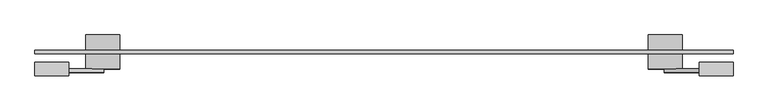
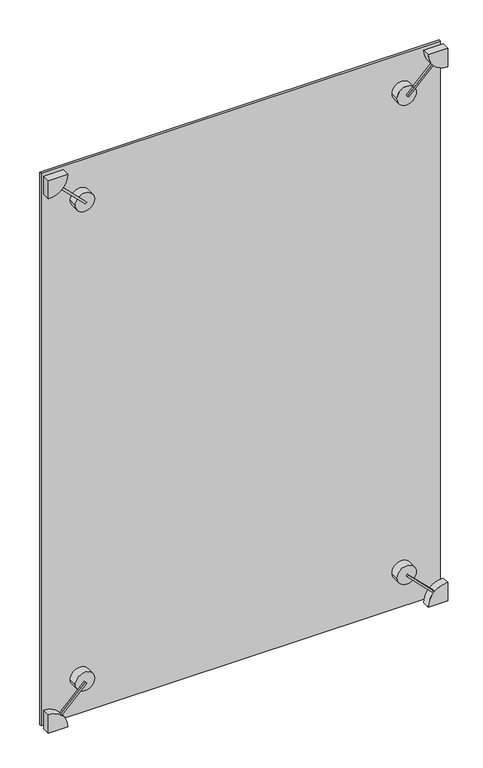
"""IFC4 building model written with IfcOpenShell, lengths in millimetres: plate geometry, 点爪式幕墙嵌板 : 点爪式幕墙嵌板."""

from ifc_helpers import new_model, si_unit, point, frame, frame_2d, origin, origin_with_axes, place, context, project, spatial, polyline, circle_curve, trimmed, segment, composite_curve, outline, extrude, source, transform, mapped, element, save
from ifc_brep_helpers import plane_surface, cylinder_surface, advanced_brep


def plate_4a5322c5(model_context):
    return source(origin(), model_context, "Body", "SolidModel", [
        extrude(outline(polyline([(0.0, -10.0), (0.0, 0.0), (10.0, 0.0), (10.0, -10.0), (0.0, -10.0)])), frame((-958.7667022, -60.0, 73.3043656), z_axis=(0.7071067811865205, 0.0, 0.7071067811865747), x_axis=(0.0, 1.0, 0.0)), (0.0, 0.0, 1.0), 181.331972),
        extrude(outline(composite_curve([segment(trimmed(circle_curve(frame_2d((0.0, -1025.0)), 100.0), [point((0.0, -925.0))], [point((100.0, -1025.0))], False, "CARTESIAN"), True, "CONTINUOUS"), segment(polyline([(100.0, -1025.0), (0.0, -1025.0), (0.0, -925.0)]), True, "CONTINUOUS")], self_intersect=False)), frame((0.0, -70.0, 0.0), z_axis=(0.0, 1.0, 0.0), x_axis=(0.0, 0.0, 1.0)), (0.0, 0.0, 1.0), 40.0),
        extrude(outline(composite_curve([segment(trimmed(circle_curve(frame_2d((199.0051024, -825.9948976)), 50.0), [point((199.0051024, -775.9948976))], [point((199.0051024, -875.9948976))], False, "CARTESIAN"), True, "CONTINUOUS"), segment(trimmed(circle_curve(frame_2d((199.0051024, -825.9948976)), 50.0), [point((199.0051024, -875.9948976))], [point((199.0051024, -775.9948976))], False, "CARTESIAN"), True, "CONTINUOUS")], self_intersect=False)), frame((0.0, -50.0, 0.0), z_axis=(0.0, 1.0, 0.0), x_axis=(0.0, 0.0, 1.0)), (0.0, 0.0, 1.0), 100.0),
        extrude(outline(polyline([(0.0, -181.3319719), (0.0, 0.0), (10.0, 0.0), (10.0, -181.3319719), (0.0, -181.3319719)])), frame((823.4745674, -60.0, 194.4543648), z_axis=(0.7071067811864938, 0.0, 0.7071067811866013), x_axis=(0.0, 1.0, 0.0)), (0.0, 0.0, 1.0), 10.0),
        extrude(outline(composite_curve([segment(polyline([(0.0, 925.0), (0.0, 1025.0), (100.0, 1025.0)]), True, "CONTINUOUS"), segment(trimmed(circle_curve(frame_2d((0.0, 1025.0)), 100.0), [point((100.0, 1025.0))], [point((0.0, 925.0))], False, "CARTESIAN"), True, "CONTINUOUS")], self_intersect=False)), frame((0.0, -70.0, 0.0), z_axis=(0.0, 1.0, 0.0), x_axis=(0.0, 0.0, 1.0)), (0.0, 0.0, 1.0), 40.0),
        extrude(outline(composite_curve([segment(trimmed(circle_curve(frame_2d((199.0051024, 825.9948976)), 50.0), [point((199.0051024, 775.9948976))], [point((199.0051024, 875.9948976))], False, "CARTESIAN"), True, "CONTINUOUS"), segment(trimmed(circle_curve(frame_2d((199.0051024, 825.9948976)), 50.0), [point((199.0051024, 875.9948976))], [point((199.0051024, 775.9948976))], False, "CARTESIAN"), True, "CONTINUOUS")], self_intersect=False)), frame((0.0, -50.0, 0.0), z_axis=(0.0, 1.0, 0.0), x_axis=(0.0, 0.0, 1.0)), (0.0, 0.0, 1.0), 100.0),
        extrude(outline(polyline([(0.0, -181.3319719), (0.0, 0.0), (10.0, 0.0), (10.0, -181.3319719), (0.0, -181.3319719)])), frame((-958.7667022, -60.0, 2926.6956344), z_axis=(0.7071067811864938, 0.0, 0.7071067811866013), x_axis=(0.0, 1.0, 0.0)), (0.0, 0.0, 1.0), 10.0),
        extrude(outline(composite_curve([segment(polyline([(3000.0, -925.0), (3000.0, -1025.0), (2900.0, -1025.0)]), True, "CONTINUOUS"), segment(trimmed(circle_curve(frame_2d((3000.0, -1025.0)), 100.0), [point((2900.0, -1025.0))], [point((3000.0, -925.0))], False, "CARTESIAN"), True, "CONTINUOUS")], self_intersect=False)), frame((0.0, -70.0, 0.0), z_axis=(0.0, 1.0, 0.0), x_axis=(0.0, 0.0, 1.0)), (0.0, 0.0, 1.0), 40.0),
        extrude(outline(composite_curve([segment(trimmed(circle_curve(frame_2d((2800.9948976, -825.9948976)), 50.0), [point((2800.9948976, -775.9948976))], [point((2800.9948976, -875.9948976))], False, "CARTESIAN"), True, "CONTINUOUS"), segment(trimmed(circle_curve(frame_2d((2800.9948976, -825.9948976)), 50.0), [point((2800.9948976, -875.9948976))], [point((2800.9948976, -775.9948976))], False, "CARTESIAN"), True, "CONTINUOUS")], self_intersect=False)), frame((0.0, -50.0, 0.0), z_axis=(0.0, 1.0, 0.0), x_axis=(0.0, 0.0, 1.0)), (0.0, 0.0, 1.0), 100.0),
        advanced_brep(
        [(775.9948976, -50.0, 2800.9948976), (875.9948976, -50.0, 2800.9948976), (864.7085497, -50.0, 2832.6374819), (830.5456352, -50.0, 2798.4745674), (823.4745674, -50.0, 2805.5456352), (857.6374819, -50.0, 2839.7085497), (775.9948976, 50.0, 2800.9948976), (875.9948976, 50.0, 2800.9948976), (823.4745674, -60.0, 2805.5456352), (830.5456352, -60.0, 2798.4745674), (957.9132994, -60.0, 2925.8422316), (950.8422316, -60.0, 2932.9132994), (950.8422316, -50.0, 2932.9132994), (957.9132994, -50.0, 2925.8422316), (925.0, -70.0, 3000.0), (1025.0, -70.0, 2900.0), (1025.0, -70.0, 3000.0), (925.0, -30.0, 3000.0), (1025.0, -30.0, 3000.0), (1025.0, -30.0, 2900.0)],
        [
            (0, 1, circle_curve(frame((825.9948976, -50.0, 2800.9948976), z_axis=(0.0, -1.0, 0.0), x_axis=(1.0, 0.0, 0.0)), 50.0)),
            (1, 2, circle_curve(frame((825.9948976, -50.0, 2800.9948976), z_axis=(0.0, -1.0, 0.0), x_axis=(1.0, 0.0, 0.0)), 50.0)),
            (2, 3),
            (3, 4),
            (4, 5),
            (5, 0, circle_curve(frame((825.9948976, -50.0, 2800.9948976), z_axis=(0.0, -1.0, 0.0), x_axis=(1.0, 0.0, 0.0)), 50.0)),
            (6, 7, circle_curve(frame((825.9948976, 50.0, 2800.9948976), z_axis=(0.0, 1.0, 0.0), x_axis=(1.0, 0.0, 0.0)), 50.0)),
            (7, 6, circle_curve(frame((825.9948976, 50.0, 2800.9948976), z_axis=(0.0, 1.0, 0.0), x_axis=(1.0, 0.0, 0.0)), 50.0)),
            (0, 6),
            (7, 1),
            (5, 2, circle_curve(frame((825.9948976, -50.0, 2800.9948976), z_axis=(0.0, 1.0, 0.0), x_axis=(1.0, 0.0, 0.0)), 50.0)),
            (8, 9),
            (9, 10),
            (10, 11, circle_curve(frame((1025.0, -60.0, 3000.0), z_axis=(0.0, 1.0, 0.0), x_axis=(1.0, 0.0, 0.0)), 100.0)),
            (11, 8),
            (5, 12),
            (12, 13, circle_curve(frame((1025.0, -50.0, 3000.0), z_axis=(0.0, -1.0, 0.0), x_axis=(1.0, 0.0, 0.0)), 100.0)),
            (13, 2),
            (4, 8),
            (11, 12),
            (3, 9),
            (13, 10),
            (14, 15, circle_curve(frame((1025.0, -70.0, 3000.0), z_axis=(0.0, -1.0, 0.0), x_axis=(1.0, 0.0, 0.0)), 100.0)),
            (15, 16),
            (16, 14),
            (17, 18),
            (18, 19),
            (19, 17, circle_curve(frame((1025.0, -30.0, 3000.0), z_axis=(0.0, 1.0, 0.0), x_axis=(1.0, 0.0, 0.0)), 100.0)),
            (14, 17),
            (19, 15),
            (18, 16),
        ],
        [
            plane_surface(frame((875.9948976, -50.0, 2800.9948976), z_axis=(0.0, -1.0, 0.0), x_axis=(0.0, 0.0, 1.0))),
            plane_surface(frame((875.9948976, 50.0, 2800.9948976), z_axis=(0.0, 1.0, 0.0), x_axis=(0.0, 0.0, -1.0))),
            cylinder_surface(frame((825.9948976, 50.0, 2800.9948976), z_axis=(0.0, -1.0, 0.0), x_axis=(1.0, 0.0, 0.0)), 50.0),
            plane_surface(frame((823.4745674, -60.0, 2805.5456352), z_axis=(0.0, -1.0000000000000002, 0.0), x_axis=(-0.7071067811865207, 0.0, -0.7071067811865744))),
            plane_surface(frame((823.4745674, -50.0, 2805.5456352), z_axis=(0.0, 1.0000000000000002, 0.0), x_axis=(0.7071067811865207, 0.0, 0.7071067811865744))),
            plane_surface(frame((951.6956344, -60.0, 2933.7667022), z_axis=(-0.7071067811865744, 0.0, 0.7071067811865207), x_axis=(0.0, 1.0, 0.0))),
            plane_surface(frame((823.4745674, -60.0, 2805.5456352), z_axis=(-0.7071067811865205, 0.0, -0.7071067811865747), x_axis=(0.0, 1.0, 0.0))),
            plane_surface(frame((830.5456352, -60.0, 2798.4745674), z_axis=(0.7071067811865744, 0.0, -0.7071067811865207), x_axis=(0.0, 1.0, 0.0))),
            plane_surface(frame((1125.0, -70.0, 3000.0), z_axis=(0.0, -1.0, 0.0), x_axis=(0.0, 0.0, 1.0))),
            plane_surface(frame((1125.0, -30.0, 3000.0), z_axis=(0.0, 1.0, 0.0), x_axis=(0.0, 0.0, -1.0))),
            cylinder_surface(frame((1025.0, -30.0, 3000.0), z_axis=(0.0, -1.0, 0.0), x_axis=(1.0, 0.0, 0.0)), 100.0),
            plane_surface(frame((1025.0, -70.0, 2900.0), z_axis=(1.0, 0.0, 0.0), x_axis=(0.0, 1.0, 0.0))),
            plane_surface(frame((1025.0, -70.0, 3000.0), z_axis=(0.0, 0.0, 1.0), x_axis=(0.0, 1.0, 0.0))),
        ],
        [
            (0, [[1, 2, 3, 4, 5, 6]]),
            (1, [[7, 8]]),
            (2, [[-1, 9, -8, 10]]),
            (2, [[-7, -9, -6, 11, -2, -10]]),
            (3, [[12, 13, 14, 15]]),
            (4, [[-11, 16, 17, 18]]),
            (5, [[19, -15, 20, -16, -5]]),
            (6, [[-12, -19, -4, 21]]),
            (7, [[-21, -3, -18, 22, -13]]),
            (8, [[23, 24, 25]]),
            (9, [[26, 27, 28]]),
            (10, [[-23, 29, -28, 30], [-14, -22, -17, -20]]),
            (11, [[-24, -30, -27, 31]]),
            (12, [[-25, -31, -26, -29]]),
        ],
    ),
        extrude(outline(polyline([(1025.0, 5.0), (1025.0, -5.0), (-1025.0, -5.0), (-1025.0, 5.0), (1025.0, 5.0)])), origin_with_axes(), (0.0, 0.0, 1.0), 3000.0),
    ])


if __name__ == "__main__":
    model = new_model("IFC4")
    model_context = context("Model", 3, world=origin())
    ifc_project = project(units=[si_unit("LENGTHUNIT", "METRE", prefix="MILLI")], contexts=[model_context])
    site = spatial("IfcSite", under=ifc_project)
    building = spatial("IfcBuilding", under=site)
    placement = place(None, origin())
    plate_shape = plate_4a5322c5(model_context)
    element("IfcPlate", 1, ObjectType="点爪式幕墙嵌板 : 点爪式幕墙嵌板", at=placement, inside=building, context=model_context, shape_type="MappedRepresentation", body=[
        mapped(plate_shape, transform((0.0, 0.0, 0.0), x_axis=(1.0, 0.0, 0.0), y_axis=(0.0, 1.0, 0.0), z_axis=(0.0, 0.0, 1.0))),
    ])
    save(model, "model.ifc")
